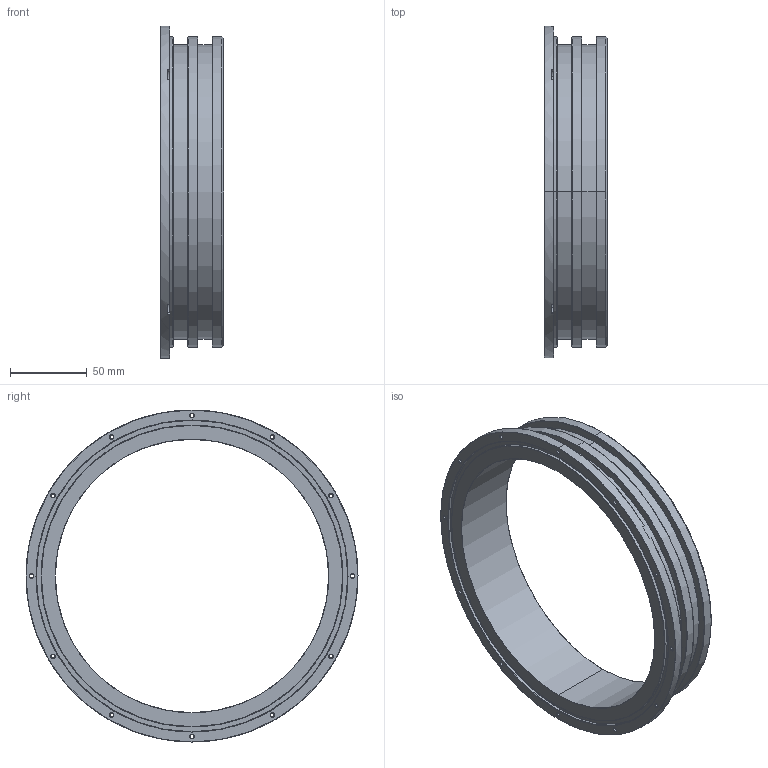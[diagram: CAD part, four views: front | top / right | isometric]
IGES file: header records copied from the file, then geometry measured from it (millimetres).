
Start section: SolidWorks IGES file using analytic representation for surfaces
Global section: file name: C:\BR-Vault\LEGACY-IMPORT\PROJECTS\WTE\RELEASE\PUBLIC\WTE8-M-FLANGE-SEAL-R1\WTE8-M-FLANGE-SEAL-R1.IGS; native system: SolidWorks 2022; preprocessor: SolidWorks 2022; author: emill; date: 221108.101617; units: millimetre
Bounding box: 41 x 215.9 x 215.9 mm (x, y, z)
Surface area: 86838.6 mm2 (no closed solid volume)
Topology: 0 solids, 0 shells, 131 faces, 2236 edges, 2228 vertices
Faces by surface type: revolution 110, bspline 21
